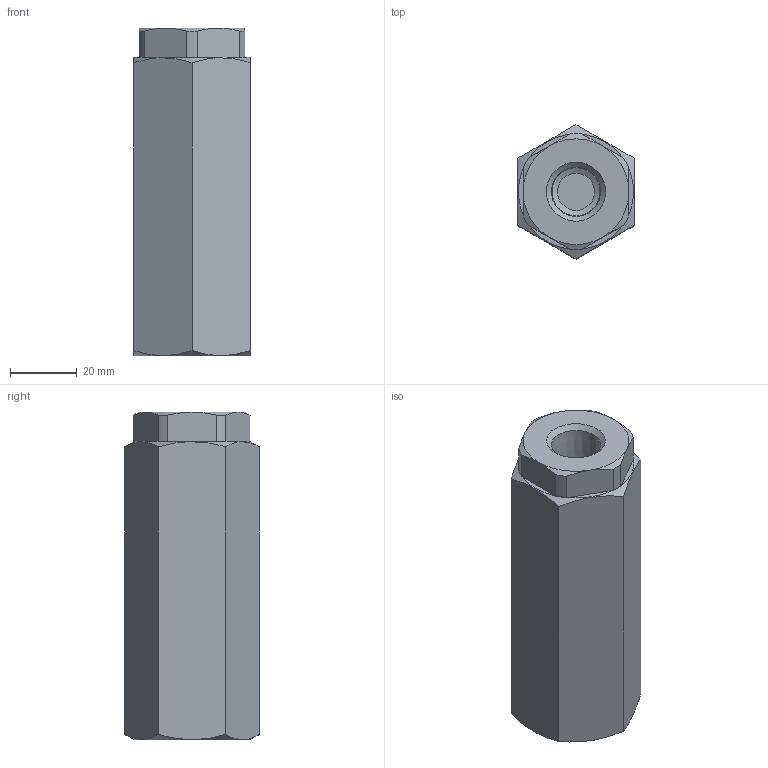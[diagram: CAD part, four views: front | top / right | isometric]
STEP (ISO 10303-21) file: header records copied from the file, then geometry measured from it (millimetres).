
FILE_DESCRIPTION(/* description */ (''),/* implementation_level */ '2;1');
FILE_NAME(/* name */ 'C:\Users\mcooper\OneDrive - Deltrol Corporation\Desktop\DFP_Docs\Deltrol\Catalog Pages 2023\Updated Pages\PC Inline Valves\PC4-31.stp',/* time_stamp */ '2026-06-17T15:54:56-04:00',/* author */ ('mcooper'),/* organization */ (''),/* preprocessor_version */ 'ST-DEVELOPER v18',/* originating_system */ 'Autodesk Inventor 2020',/* authorisation */ '');
FILE_SCHEMA (('AUTOMOTIVE_DESIGN { 1 0 10303 214 3 1 1 }'));
Length unit declared in the file: inch
Products named in the file (1): PC4-31 10142-40_Shrinkwrap_1
Bounding box: 34.92 x 40.33 x 98.45 mm (x, y, z)
Volume: 90979.6 mm3; surface area: 26923.8 mm2
Topology: 2 solids, 2 shells, 937 faces, 2563 edges, 1710 vertices
Faces by surface type: plane 549, bspline 346, cone 20, cylinder 19, torus 3
Full cylindrical faces by diameter (mm): 11.125 x1, 13.889 x1, 14.478 x1, 22.225 x1, 22.355 x1, 23.825 x1, 24.003 x1, 25.019 x1, 26.987 x1
Entity records: 32266 total; most frequent: CARTESIAN_POINT 9853, ORIENTED_EDGE 5126, DIRECTION 3122, EDGE_CURVE 2563, LINE 1756, VECTOR 1756, VERTEX_POINT 1710, EDGE_LOOP 1019
